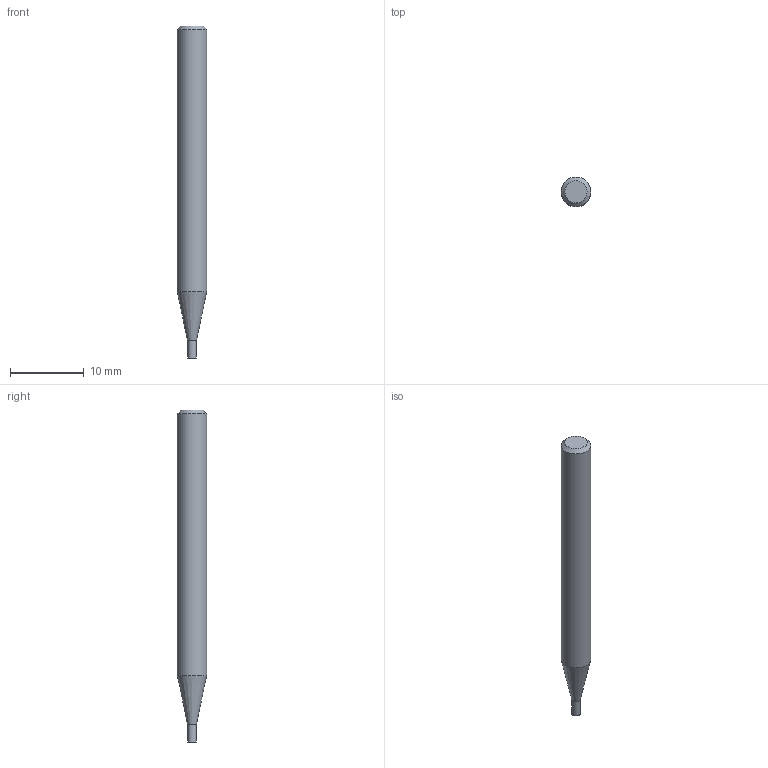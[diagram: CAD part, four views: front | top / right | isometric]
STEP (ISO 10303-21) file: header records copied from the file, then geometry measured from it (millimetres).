
FILE_DESCRIPTION((''),'2;1');
FILE_NAME('C:\Users\nsx150\AppData\Local\Temp\Mastercam 2021\E36A1X9CCL\TEMP.step','2023-04-21T15:12:15',(''),(''),'STEP Write','Mastercam 2021 ... CNC Software, Inc.','');
FILE_SCHEMA(('AUTOMOTIVE_DESIGN'));
Length unit declared in the file: millimetre
Products named in the file (1): None
Bounding box: 4 x 4 x 45 mm (x, y, z)
Volume: 492.2 mm3; surface area: 528.6 mm2
Topology: 2 solids, 2 shells, 8 faces, 10 edges, 6 vertices
Faces by surface type: plane 4, cylinder 2, cone 2
Full cylindrical faces by diameter (mm): 1.2 x1, 4 x1
Entity records: 190 total; most frequent: DIRECTION 32, CARTESIAN_POINT 22, AXIS2_PLACEMENT_3D 16, ORIENTED_EDGE 12, EDGE_LOOP 12, STYLED_ITEM 11, ADVANCED_FACE 8, VERTEX_POINT 6
